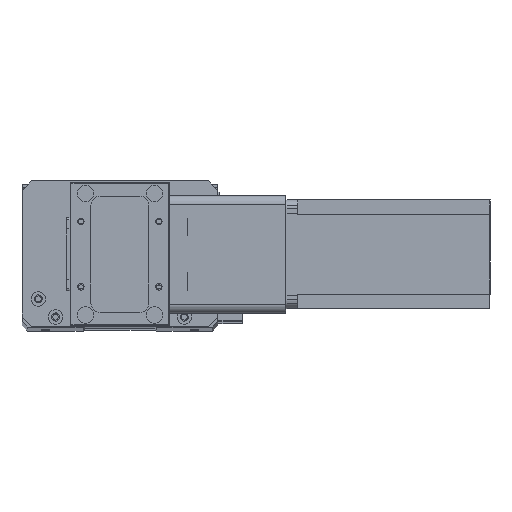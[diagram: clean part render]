
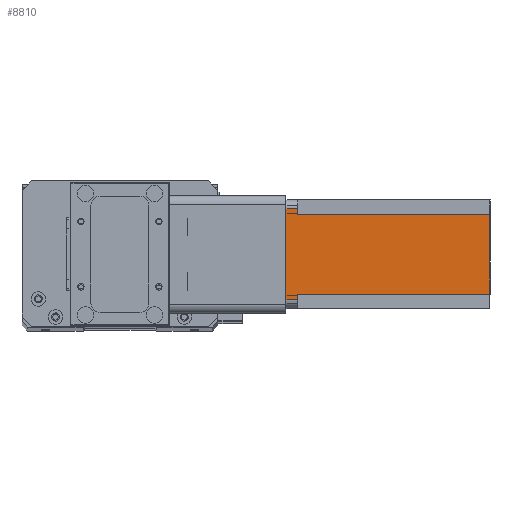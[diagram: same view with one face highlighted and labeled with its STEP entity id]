
A CAD part, top view. The second image highlights one B-rep face of the part: STEP entity #8810.
In plain terms, the highlighted planar face has unit normal (0, 0, 1) as drawn and (0, 1, 0) by its records, which use the part's own axes.
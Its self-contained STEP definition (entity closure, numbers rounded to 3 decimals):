
#853 = DIRECTION ( 'NONE',  ( -1., 0., 0. ) ) ;
#1321 = EDGE_CURVE ( 'NONE', #7495, #24521, #25699, .T. ) ;
#1597 = CARTESIAN_POINT ( 'NONE',  ( 8., 60., -112.5 ) ) ;
#1955 = VERTEX_POINT ( 'NONE', #14469 ) ;
#2108 = ORIENTED_EDGE ( 'NONE', *, *, #21650, .F. ) ;
#2985 = VECTOR ( 'NONE', #853, 1000. ) ;
#2997 = VERTEX_POINT ( 'NONE', #17675 ) ;
#3273 = DIRECTION ( 'NONE',  ( 1., 0., 0. ) ) ;
#3504 = EDGE_LOOP ( 'NONE', ( #21395, #8442, #5316, #25538, #18997, #2108, #22485, #9084 ) ) ;
#3876 = CARTESIAN_POINT ( 'NONE',  ( 55., 60., -112.5 ) ) ;
#3964 = CARTESIAN_POINT ( 'NONE',  ( 52., 60., -112.5 ) ) ;
#4669 = DIRECTION ( 'NONE',  ( -1., 0., 0. ) ) ;
#4752 = VECTOR ( 'NONE', #3273, 1000. ) ;
#5189 = CARTESIAN_POINT ( 'NONE',  ( 8., 60., -6.5 ) ) ;
#5316 = ORIENTED_EDGE ( 'NONE', *, *, #7268, .F. ) ;
#5438 = CARTESIAN_POINT ( 'NONE',  ( 52., 60., -112.5 ) ) ;
#5547 = CARTESIAN_POINT ( 'NONE',  ( 0., 60., -112.5 ) ) ;
#5964 = CARTESIAN_POINT ( 'NONE',  ( 55., 60., -6.5 ) ) ;
#5970 = EDGE_CURVE ( 'NONE', #7495, #9086, #17145, .T. ) ;
#6275 = CARTESIAN_POINT ( 'NONE',  ( 55., 60., 0. ) ) ;
#6943 = VERTEX_POINT ( 'NONE', #3964 ) ;
#7268 = EDGE_CURVE ( 'NONE', #1955, #24521, #27400, .T. ) ;
#7406 = CARTESIAN_POINT ( 'NONE',  ( 8., 60., -6.5 ) ) ;
#7495 = VERTEX_POINT ( 'NONE', #6275 ) ;
#7568 = DIRECTION ( 'NONE',  ( 0., 0., 1. ) ) ;
#7573 = CARTESIAN_POINT ( 'NONE',  ( 52., 60., -6.5 ) ) ;
#8428 = DIRECTION ( 'NONE',  ( 0., 1., 0. ) ) ;
#8442 = ORIENTED_EDGE ( 'NONE', *, *, #1321, .T. ) ;
#8463 = EDGE_CURVE ( 'NONE', #18361, #2997, #9355, .T. ) ;
#8587 = EDGE_CURVE ( 'NONE', #6943, #10896, #22999, .T. ) ;
#8686 = VECTOR ( 'NONE', #12462, 1000. ) ;
#8810 = ADVANCED_FACE ( 'NONE', ( #21011 ), #27510, .T. ) ;
#9084 = ORIENTED_EDGE ( 'NONE', *, *, #14379, .T. ) ;
#9086 = VERTEX_POINT ( 'NONE', #14010 ) ;
#9135 = VECTOR ( 'NONE', #16758, 1000. ) ;
#9355 = LINE ( 'NONE', #5189, #2985 ) ;
#10896 = VERTEX_POINT ( 'NONE', #1597 ) ;
#11695 = VECTOR ( 'NONE', #22676, 1000. ) ;
#11805 = LINE ( 'NONE', #12123, #12458 ) ;
#12123 = CARTESIAN_POINT ( 'NONE',  ( 5., 60., -112.5 ) ) ;
#12458 = VECTOR ( 'NONE', #27004, 1000. ) ;
#12462 = DIRECTION ( 'NONE',  ( 0., 0., -1. ) ) ;
#14010 = CARTESIAN_POINT ( 'NONE',  ( 5., 60., 0. ) ) ;
#14379 = EDGE_CURVE ( 'NONE', #2997, #9086, #11805, .T. ) ;
#14469 = CARTESIAN_POINT ( 'NONE',  ( 52., 60., -6.5 ) ) ;
#14758 = CARTESIAN_POINT ( 'NONE',  ( 0., 60., -112.5 ) ) ;
#14799 = LINE ( 'NONE', #25247, #9135 ) ;
#16599 = VECTOR ( 'NONE', #7568, 1000. ) ;
#16758 = DIRECTION ( 'NONE',  ( 0., 0., -1. ) ) ;
#17145 = LINE ( 'NONE', #26002, #26474 ) ;
#17675 = CARTESIAN_POINT ( 'NONE',  ( 5., 60., -6.5 ) ) ;
#18361 = VERTEX_POINT ( 'NONE', #7406 ) ;
#18907 = EDGE_CURVE ( 'NONE', #6943, #1955, #22930, .T. ) ;
#18997 = ORIENTED_EDGE ( 'NONE', *, *, #8587, .T. ) ;
#21011 = FACE_OUTER_BOUND ( 'NONE', #3504, .T. ) ;
#21395 = ORIENTED_EDGE ( 'NONE', *, *, #5970, .F. ) ;
#21650 = EDGE_CURVE ( 'NONE', #18361, #10896, #14799, .T. ) ;
#22485 = ORIENTED_EDGE ( 'NONE', *, *, #8463, .T. ) ;
#22676 = DIRECTION ( 'NONE',  ( -1., 0., 0. ) ) ;
#22930 = LINE ( 'NONE', #5438, #16599 ) ;
#22999 = LINE ( 'NONE', #5547, #11695 ) ;
#23331 = DIRECTION ( 'NONE',  ( 0., 0., 1. ) ) ;
#24521 = VERTEX_POINT ( 'NONE', #5964 ) ;
#25247 = CARTESIAN_POINT ( 'NONE',  ( 8., 60., -112.5 ) ) ;
#25538 = ORIENTED_EDGE ( 'NONE', *, *, #18907, .F. ) ;
#25699 = LINE ( 'NONE', #3876, #8686 ) ;
#25703 = AXIS2_PLACEMENT_3D ( 'NONE', #14758, #8428, #23331 ) ;
#26002 = CARTESIAN_POINT ( 'NONE',  ( 0., 60., 0. ) ) ;
#26474 = VECTOR ( 'NONE', #4669, 1000. ) ;
#27004 = DIRECTION ( 'NONE',  ( 0., 0., 1. ) ) ;
#27400 = LINE ( 'NONE', #7573, #4752 ) ;
#27510 = PLANE ( 'NONE',  #25703 ) ;
